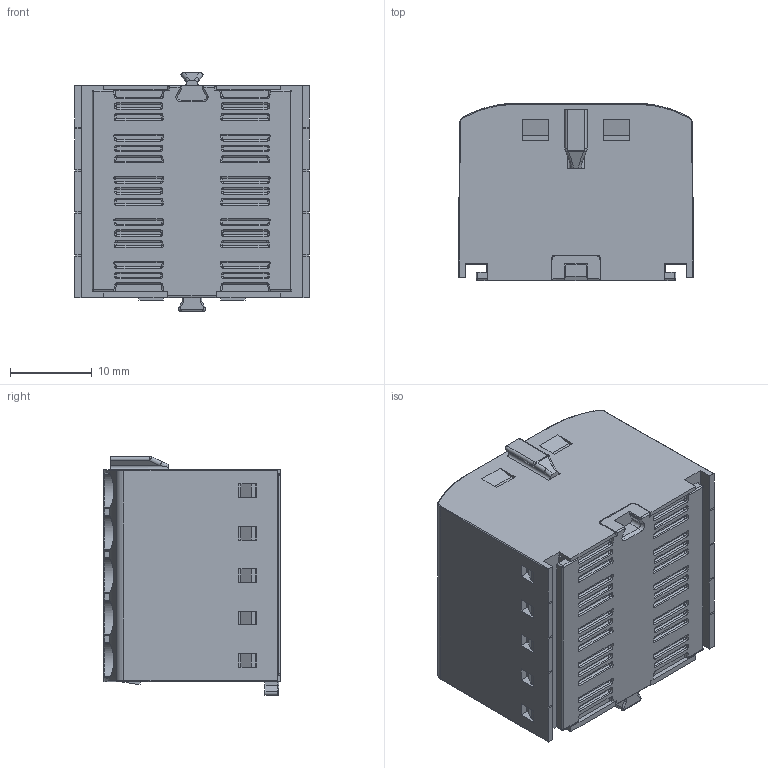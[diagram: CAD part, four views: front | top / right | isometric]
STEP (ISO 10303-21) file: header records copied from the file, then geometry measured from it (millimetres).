
FILE_DESCRIPTION((''),'2;1');
FILE_NAME('JUT15-10X2_5_ASSY','2024-12-30T10:51:33',('Administrator'),(''),'CREO PARAMETRIC BY PTC INC, 2018050','CREO PARAMETRIC BY PTC INC, 2018050','');
FILE_SCHEMA(('CONFIG_CONTROL_DESIGN'));
Length unit declared in the file: millimetre
Products named in the file (1): JUT15-10X2_5_ASSY
Bounding box: 28.8 x 21.7 x 29.3 mm (x, y, z)
Volume: 12499.6 mm3; surface area: 12269.4 mm2
Topology: 2 solids, 18 shells, 4897 faces, 13051 edges, 7732 vertices
Faces by surface type: plane 2074, cylinder 1735, sphere 532, bspline 258, torus 214, cone 64, extrusion 20
Entity records: 159004 total; most frequent: CARTESIAN_POINT 41547, ORIENTED_EDGE 25118, DIRECTION 24049, EDGE_CURVE 12559, AXIS2_PLACEMENT_3D 8323, VERTEX_POINT 7732, VECTOR 7403, LINE 7383
